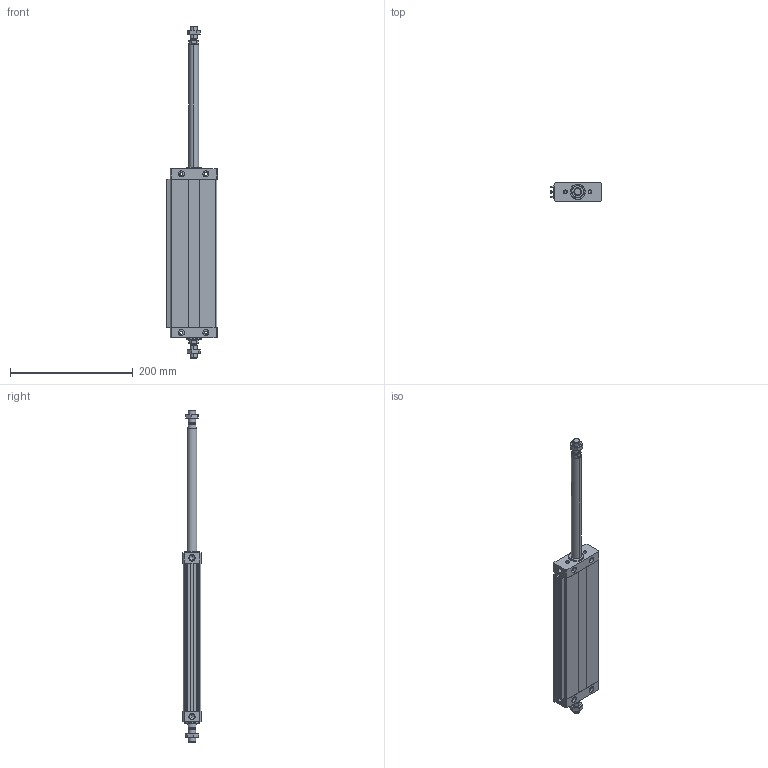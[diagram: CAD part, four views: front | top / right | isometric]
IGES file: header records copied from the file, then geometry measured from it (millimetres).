
Global section: file name: No Iges File Name specified; native system: Autodesk Inventor 2011; preprocessor: AutoDesk Inventor Iges Exporter R2011; author: airolcr1; date: 20101213.153219; units: millimetre
Bounding box: 82.5 x 30 x 542 mm (x, y, z)
Volume: 446470.3 mm3; surface area: 156901.1 mm2
Topology: 6 solids, 6 shells, 276 faces, 652 edges, 396 vertices
Faces by surface type: bspline 110, plane 98, cone 36, cylinder 18, revolution 14
